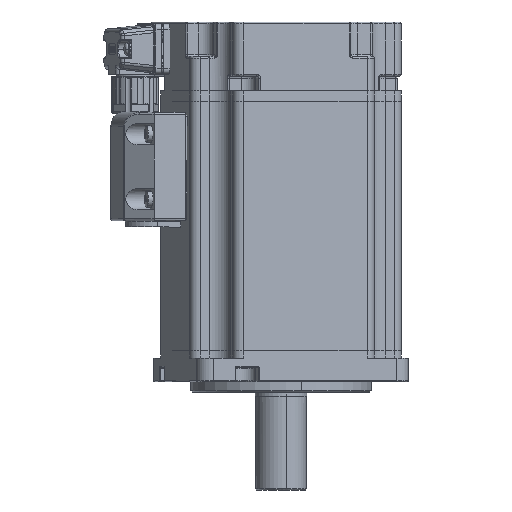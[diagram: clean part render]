
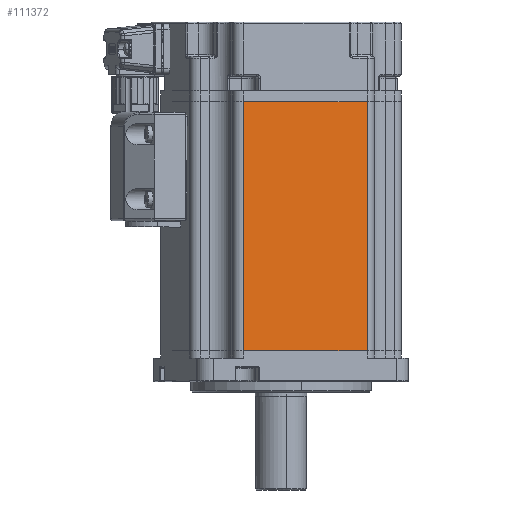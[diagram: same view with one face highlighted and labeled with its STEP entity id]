
A CAD part, left-side view. The second image highlights one B-rep face of the part: STEP entity #111372.
In plain terms, the highlighted planar face has unit normal (-0.974, -0.225, 0) as drawn and (-1, 0, 0) by its records, which use the part's own axes.
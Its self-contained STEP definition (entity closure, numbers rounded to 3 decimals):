
#1202 = EDGE_LOOP ( 'NONE', ( #116679, #173896, #202340, #44009 ) ) ;
#7408 = DIRECTION ( 'NONE',  ( 1., 0., 0. ) ) ;
#9280 = VECTOR ( 'NONE', #43377, 1000. ) ;
#23107 = AXIS2_PLACEMENT_3D ( 'NONE', #161621, #7408, #58595 ) ;
#23270 = VERTEX_POINT ( 'NONE', #92364 ) ;
#26691 = DIRECTION ( 'NONE',  ( 0., -1., 0. ) ) ;
#35049 = DIRECTION ( 'NONE',  ( 0., -1., 0. ) ) ;
#38857 = CARTESIAN_POINT ( 'NONE',  ( -30., 17.55, 69. ) ) ;
#43377 = DIRECTION ( 'NONE',  ( 0., 0., 1. ) ) ;
#44009 = ORIENTED_EDGE ( 'NONE', *, *, #49870, .F. ) ;
#49870 = EDGE_CURVE ( 'NONE', #148929, #23270, #159214, .T. ) ;
#56381 = PLANE ( 'NONE',  #23107 ) ;
#58595 = DIRECTION ( 'NONE',  ( 0., 0., -1. ) ) ;
#67099 = EDGE_CURVE ( 'NONE', #208934, #148929, #95393, .T. ) ;
#67732 = VECTOR ( 'NONE', #163248, 1000. ) ;
#88064 = EDGE_CURVE ( 'NONE', #158929, #23270, #178844, .T. ) ;
#92364 = CARTESIAN_POINT ( 'NONE',  ( -30., -17.55, 0. ) ) ;
#95393 = LINE ( 'NONE', #190838, #141104 ) ;
#96260 = EDGE_CURVE ( 'NONE', #158929, #208934, #141220, .T. ) ;
#103425 = CARTESIAN_POINT ( 'NONE',  ( -30., 17.55, 0. ) ) ;
#111372 = ADVANCED_FACE ( 'NONE', ( #113791 ), #56381, .F. ) ;
#113385 = CARTESIAN_POINT ( 'NONE',  ( -30., 17.55, 69. ) ) ;
#113791 = FACE_OUTER_BOUND ( 'NONE', #1202, .T. ) ;
#116679 = ORIENTED_EDGE ( 'NONE', *, *, #67099, .F. ) ;
#141104 = VECTOR ( 'NONE', #35049, 1000. ) ;
#141220 = LINE ( 'NONE', #113385, #9280 ) ;
#148929 = VERTEX_POINT ( 'NONE', #157232 ) ;
#157232 = CARTESIAN_POINT ( 'NONE',  ( -30., -17.55, 69. ) ) ;
#158929 = VERTEX_POINT ( 'NONE', #103425 ) ;
#159214 = LINE ( 'NONE', #197153, #67732 ) ;
#161621 = CARTESIAN_POINT ( 'NONE',  ( -30., -17.55, 69. ) ) ;
#163248 = DIRECTION ( 'NONE',  ( 0., 0., -1. ) ) ;
#165393 = VECTOR ( 'NONE', #26691, 1000. ) ;
#173896 = ORIENTED_EDGE ( 'NONE', *, *, #96260, .F. ) ;
#178844 = LINE ( 'NONE', #181040, #165393 ) ;
#181040 = CARTESIAN_POINT ( 'NONE',  ( -30., -25.05, 0. ) ) ;
#190838 = CARTESIAN_POINT ( 'NONE',  ( -30., -25.05, 69. ) ) ;
#197153 = CARTESIAN_POINT ( 'NONE',  ( -30., -17.55, 69. ) ) ;
#202340 = ORIENTED_EDGE ( 'NONE', *, *, #88064, .T. ) ;
#208934 = VERTEX_POINT ( 'NONE', #38857 ) ;
